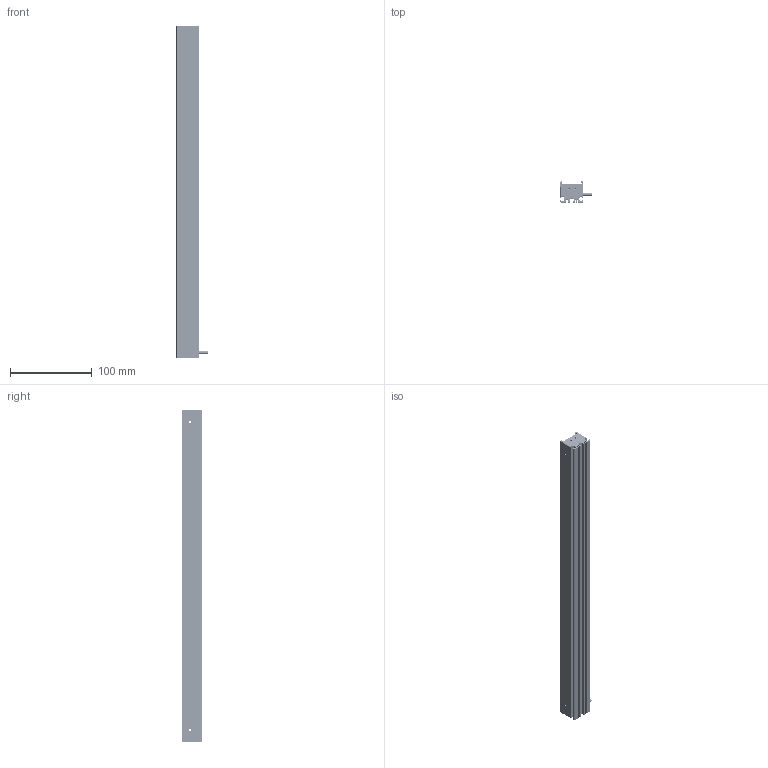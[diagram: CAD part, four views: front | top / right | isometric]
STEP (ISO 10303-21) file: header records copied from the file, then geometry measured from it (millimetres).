
FILE_DESCRIPTION (( 'STEP AP203' ), '1' );
FILE_NAME ('TR40528-W.STEP', '2021-10-14T07:20:05', ( 'Windows 蚚誧' ), ( 'Microsoft' ), 'SwSTEP 2.0', 'SolidWorks 2016', '' );
FILE_SCHEMA (( 'CONFIG_CONTROL_DESIGN' ));
Products named in the file (1): TR40528-W
Bounding box: 38 x 25 x 405 mm (x, y, z)
Volume: 118585.7 mm3; surface area: 102725.7 mm2
Topology: 1 solids, 1 shells, 2819 faces, 7586 edges, 4613 vertices
Faces by surface type: cylinder 1562, sphere 770, plane 479, cone 8
Entity records: 77897 total; most frequent: DIRECTION 15726, CARTESIAN_POINT 12701, ORIENTED_EDGE 12076, AXIS2_PLACEMENT_3D 6868, EDGE_CURVE 6038, CIRCLE 4048, VERTEX_POINT 3843, EDGE_LOOP 3449
